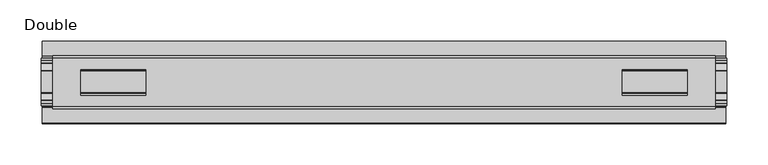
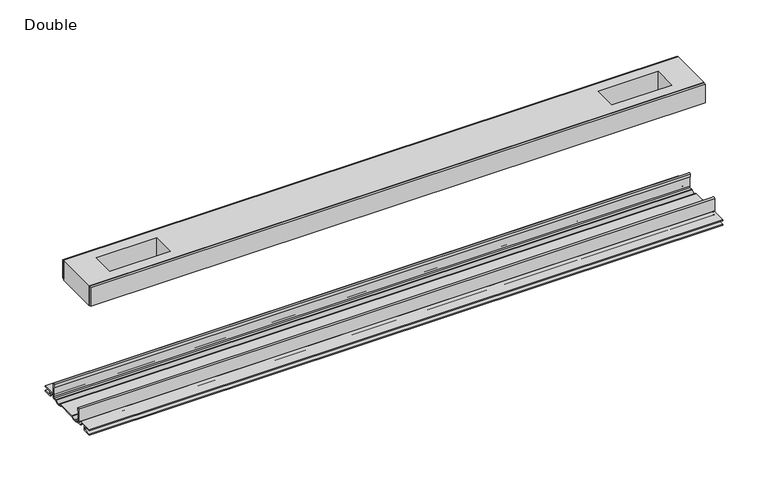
"""IFC4 building model written with IfcOpenShell, lengths in millimetres: proxy geometry, Frame-Teknion-FHCRA-Horizontal_Rail-R2022 : Double."""

from ifc_helpers import new_model, si_unit, point, frame, frame_2d, origin, place, context, project, spatial, polyline, circle_curve, trimmed, segment, composite_curve, outline, extrude, source, transform, mapped, element, save


def double_848c6b0f(model_context):
    return source(origin(), model_context, "Body", "SweptSolid", [
        extrude(outline(polyline([(403.1615091, -29.0068005), (403.1615091, -32.1817997), (-403.1615091, -32.1817997), (-403.1615091, -29.0068005), (403.1615091, -29.0068005)])), frame((0.0, 0.0, 149.8401622), z_axis=(0.0, 0.0, 1.0), x_axis=(1.0, 0.0, 0.0)), (0.0, 0.0, 1.0), 25.3999939),
        extrude(outline(polyline([(403.1615091, 32.1817997), (403.1615091, 29.0068005), (-403.1615091, 29.0068005), (-403.1615091, 32.1817997), (403.1615091, 32.1817997)])), frame((0.0, 0.0, 149.8401622), z_axis=(0.0, 0.0, 1.0), x_axis=(1.0, 0.0, 0.0)), (0.0, 0.0, 1.0), 25.3999939),
        extrude(outline(polyline([(403.1615091, 29.0068005), (403.1615091, -29.0068005), (-403.1615091, -29.0068005), (-403.1615091, 29.0068005), (403.1615091, 29.0068005)]), holes=[polyline([(368.7444965, 15.1130038), (289.6996847, 15.1130038), (289.6996847, -15.875003), (368.7444965, -15.875003), (368.7444965, 15.1130038)]), polyline([(-368.7444965, 15.1130038), (-368.7444965, -15.875003), (-289.6996847, -15.875003), (-289.6996847, 15.1130038), (-368.7444965, 15.1130038)])]), frame((0.0, 0.0, 148.4185847), z_axis=(0.0, 0.0, 1.0), x_axis=(1.0, 0.0, 0.0)), (0.0, 0.0, 1.0), 27.9999988),
        extrude(outline(composite_curve([segment(polyline([(-28.8162961, -7.7516037), (-28.8162961, 9.8607558)]), True, "CONTINUOUS"), segment(trimmed(circle_curve(frame_2d((-27.5970982, 9.8607558)), 1.2191979), [point((-28.8162961, 9.8607558))], [point((-26.3779003, 9.8607558))], False, "CARTESIAN"), True, "CONTINUOUS"), segment(polyline([(-26.3779003, 9.8607558), (-26.3779003, 5.9999563), (-27.6580769, 5.9999563), (-27.6580769, -7.7516037)]), True, "CONTINUOUS"), segment(trimmed(circle_curve(frame_2d((-26.6420561, -7.7516037)), 1.0160208), [point((-27.6580769, -7.7516037))], [point((-26.6485732, -8.7676036))], True, "CARTESIAN"), True, "CONTINUOUS"), segment(polyline([(-26.6485732, -8.7676036), (-22.7056226, -8.7676036), (-21.7922609, -8.968753)]), True, "CONTINUOUS"), segment(trimmed(circle_curve(frame_2d((-17.7673021, -6.1259382)), 4.9276657), [point((-21.7922609, -8.968753))], [point((-13.7423434, -8.968753))], True, "CARTESIAN"), True, "CONTINUOUS"), segment(polyline([(-13.7423434, -8.968753), (-12.8289726, -8.7676036), (13.2099722, -8.7676036), (14.123343, -8.968753)]), True, "CONTINUOUS"), segment(trimmed(circle_curve(frame_2d((18.1483018, -6.1259382)), 4.9276657), [point((14.123343, -8.968753))], [point((22.1732605, -8.968753))], True, "CARTESIAN"), True, "CONTINUOUS"), segment(polyline([(22.1732605, -8.968753), (23.0866222, -8.7676036), (27.0295728, -8.7676036)]), True, "CONTINUOUS"), segment(trimmed(circle_curve(frame_2d((27.0230557, -7.7516037)), 1.0160208), [point((27.0295728, -8.7676036))], [point((28.0390765, -7.7516037))], True, "CARTESIAN"), True, "CONTINUOUS"), segment(polyline([(28.0390765, -7.7516037), (28.0390765, 5.9999563), (26.7588999, 5.9999563), (26.7588999, 9.8607558)]), True, "CONTINUOUS"), segment(trimmed(circle_curve(frame_2d((27.9780978, 9.8607558)), 1.2191979), [point((26.7588999, 9.8607558))], [point((29.1972958, 9.8607558))], False, "CARTESIAN"), True, "CONTINUOUS"), segment(polyline([(29.1972958, 9.8607558), (29.1972958, -7.7516037)]), True, "CONTINUOUS"), segment(trimmed(circle_curve(frame_2d((27.0230557, -7.7516037)), 2.17424), [point((29.1972958, -7.7516037))], [point((27.0230557, -9.9258438))], False, "CARTESIAN"), True, "CONTINUOUS"), segment(polyline([(27.0230557, -9.9258438), (22.732069, -9.9258438)]), True, "CONTINUOUS"), segment(trimmed(circle_curve(frame_2d((18.1516545, -6.4800016)), 5.7318431), [point((22.732069, -9.9258438))], [point((13.57124, -9.9258438))], False, "CARTESIAN"), True, "CONTINUOUS"), segment(polyline([(13.57124, -9.9258438), (-13.1902404, -9.9258438)]), True, "CONTINUOUS"), segment(trimmed(circle_curve(frame_2d((-17.7706549, -6.4800016)), 5.7318431), [point((-13.1902404, -9.9258438))], [point((-22.3510694, -9.9258438))], False, "CARTESIAN"), True, "CONTINUOUS"), segment(polyline([(-22.3510694, -9.9258438), (-26.6420561, -9.9258438)]), True, "CONTINUOUS"), segment(trimmed(circle_curve(frame_2d((-26.6420561, -7.7516037)), 2.17424), [point((-26.6420561, -9.9258438))], [point((-28.8162961, -7.7516037))], False, "CARTESIAN"), True, "CONTINUOUS")], self_intersect=False)), frame((-417.2204, 0.0, 0.0), z_axis=(1.0, 0.0, 0.0), x_axis=(0.0, 1.0, 0.0)), (0.0, 0.0, 1.0), 834.4408),
        extrude(outline(composite_curve([segment(polyline([(-50.2668422, -13.9898438), (-50.2240211, -12.3388438), (-39.7827507, -12.3388438), (-39.7827507, -7.766844), (-50.2240211, -7.766844), (-50.2668422, -6.1158439), (-31.1784975, -6.1158439)]), True, "CONTINUOUS"), segment(trimmed(circle_curve(frame_2d((-31.1784975, -7.6398436)), 1.5239997), [point((-31.1784975, -6.1158439))], [point((-29.6544978, -7.6398436))], False, "CARTESIAN"), True, "CONTINUOUS"), segment(polyline([(-29.6544978, -7.6398436), (-29.6544978, -9.9258438), (-23.1058344, -9.9258438)]), True, "CONTINUOUS"), segment(trimmed(circle_curve(frame_2d((-17.7673021, -5.2268471)), 7.1119966), [point((-23.1058344, -9.9258438))], [point((-12.4287699, -9.9258438))], True, "CARTESIAN"), True, "CONTINUOUS"), segment(polyline([(-12.4287699, -9.9258438), (12.8097695, -9.9258438)]), True, "CONTINUOUS"), segment(trimmed(circle_curve(frame_2d((18.1483018, -5.2268471)), 7.1119966), [point((12.8097695, -9.9258438))], [point((23.486834, -9.9258438))], True, "CARTESIAN"), True, "CONTINUOUS"), segment(polyline([(23.486834, -9.9258438), (30.0354975, -9.9258438), (30.0354975, -7.7656583)]), True, "CONTINUOUS"), segment(trimmed(circle_curve(frame_2d((31.6864982, -7.7656583)), 1.6510007), [point((30.0354975, -7.7656583))], [point((31.6239218, -6.1158439))], False, "CARTESIAN"), True, "CONTINUOUS"), segment(polyline([(31.6239218, -6.1158439), (50.00625, -6.1158439), (50.00625, -7.766844), (40.1637503, -7.766844), (40.1637503, -12.3388438), (50.00625, -12.3388438), (50.00625, -13.9898438), (40.0367518, -13.9898438)]), True, "CONTINUOUS"), segment(trimmed(circle_curve(frame_2d((40.0367518, -12.4658438)), 1.524), [point((40.0367518, -13.9898438))], [point((38.5127519, -12.4658438))], False, "CARTESIAN"), True, "CONTINUOUS"), segment(polyline([(38.5127519, -12.4658438), (38.5127519, -7.766844), (31.686497, -7.766844), (31.686497, -10.0528438)]), True, "CONTINUOUS"), segment(trimmed(circle_curve(frame_2d((30.1624971, -10.0528438)), 1.524), [point((31.686497, -10.0528438))], [point((30.1624971, -11.5768438))], False, "CARTESIAN"), True, "CONTINUOUS"), segment(polyline([(30.1624971, -11.5768438), (23.6563549, -11.5768438)]), True, "CONTINUOUS"), segment(trimmed(circle_curve(frame_2d((18.1483018, -6.4968436)), 7.4930002), [point((23.6563549, -11.5768438))], [point((12.8904968, -11.8354331))], False, "CARTESIAN"), True, "CONTINUOUS"), segment(polyline([(12.8904968, -11.8354331), (-12.5094972, -11.8354331)]), True, "CONTINUOUS"), segment(trimmed(circle_curve(frame_2d((-17.7673021, -6.4968436)), 7.4930002), [point((-12.5094972, -11.8354331))], [point((-23.2753553, -11.5768438))], False, "CARTESIAN"), True, "CONTINUOUS"), segment(polyline([(-23.2753553, -11.5768438), (-29.7814974, -11.5768438)]), True, "CONTINUOUS"), segment(trimmed(circle_curve(frame_2d((-29.7814974, -10.0528438)), 1.524), [point((-29.7814974, -11.5768438))], [point((-31.3054974, -10.0528438))], False, "CARTESIAN"), True, "CONTINUOUS"), segment(polyline([(-31.3054974, -10.0528438), (-31.3054974, -7.766844), (-38.1317522, -7.766844), (-38.1317522, -12.4658438)]), True, "CONTINUOUS"), segment(trimmed(circle_curve(frame_2d((-39.6557522, -12.4658438)), 1.524), [point((-38.1317522, -12.4658438))], [point((-39.6557522, -13.9898438))], False, "CARTESIAN"), True, "CONTINUOUS"), segment(polyline([(-39.6557522, -13.9898438), (-50.2668422, -13.9898438)]), True, "CONTINUOUS")], self_intersect=False)), frame((-415.5694, 0.0, 0.0), z_axis=(1.0, 0.0, 0.0), x_axis=(0.0, 1.0, 0.0)), (0.0, 0.0, 1.0), 831.1388),
    ])


if __name__ == "__main__":
    model = new_model("IFC4")
    model_context = context("Model", 3, world=origin())
    ifc_project = project(units=[si_unit("LENGTHUNIT", "METRE", prefix="MILLI")], contexts=[model_context])
    site = spatial("IfcSite", under=ifc_project)
    building = spatial("IfcBuilding", under=site)
    placement = place(None, origin())
    double_shape = double_848c6b0f(model_context)
    element("IfcBuildingElementProxy", 1, Name="Frame-Teknion-FHCRA-Horizontal_Rail-R2022 : Double", ObjectType="Frame-Teknion-FHCRA-Horizontal_Rail-R2022 : Double", at=placement, inside=building, context=model_context, shape_type="MappedRepresentation", body=[
        mapped(double_shape, transform((0.0, 0.0, 0.0), x_axis=(1.0, 0.0, 0.0), y_axis=(0.0, 1.0, 0.0), z_axis=(0.0, 0.0, 1.0))),
    ])
    save(model, "model.ifc")
